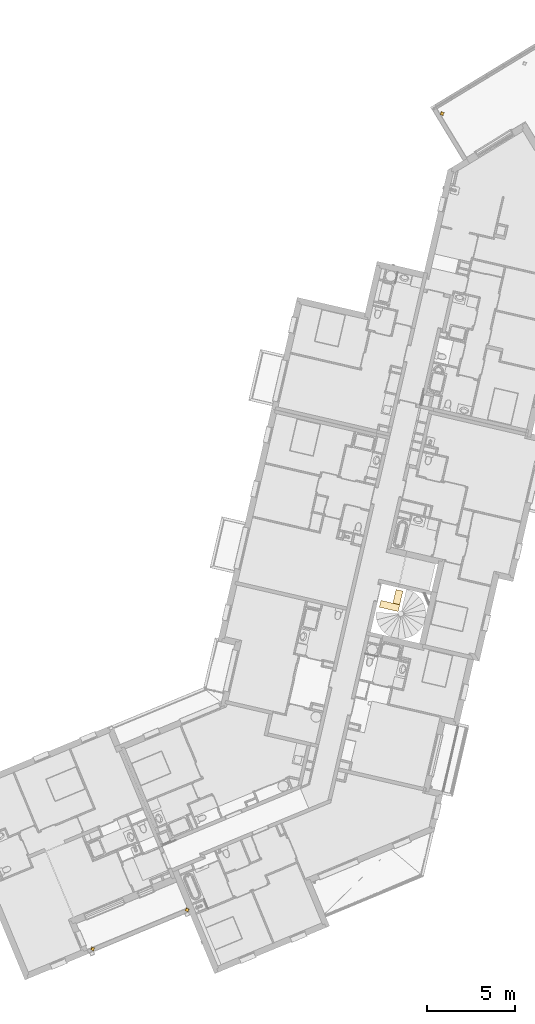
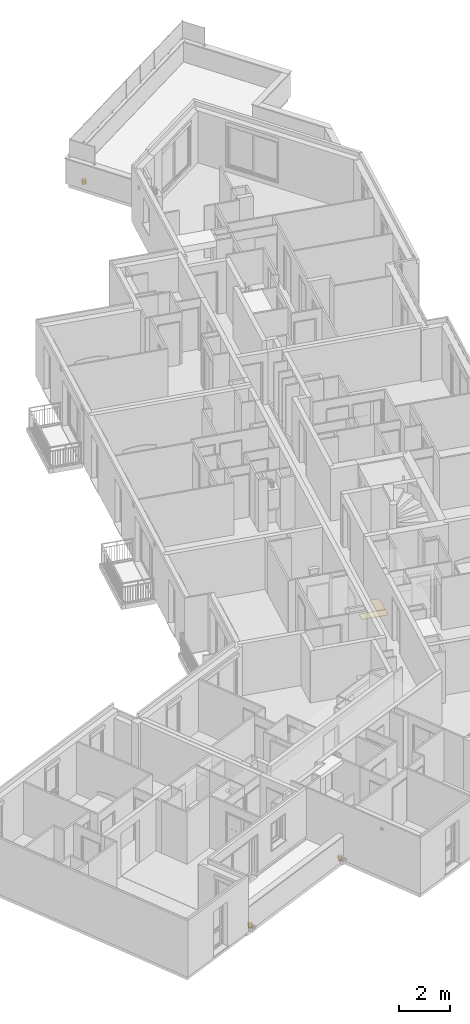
# One storey, part 55 of 91: 5 coverings.
"""IFC2X3 building model written with IfcOpenShell, lengths in metres."""

from ifc_helpers import new_model, entity, si_unit, converted_unit, derived_unit, money_unit, direction, frame, origin_with_axes, place, context, subcontext, project, spatial, faceted_brep, source, transform, mapped, material, type_object, element, save


model = new_model("IFC2X3")

# Units and contexts
model_context = context("Model", 3, precision=1e-05, world=origin_with_axes(), true_north=direction((0.0, 1.0)))
body_context = subcontext(model_context, "Body", "Model", "MODEL_VIEW")
ifc_project = project(units=[si_unit("LENGTHUNIT", "METRE"), si_unit("AREAUNIT", "SQUARE_METRE"), si_unit("VOLUMEUNIT", "CUBIC_METRE"), converted_unit("PLANEANGLEUNIT", "DEGREE", entity("IfcPlaneAngleMeasure", 0.0174532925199), si_unit("PLANEANGLEUNIT", "RADIAN"), dimensions=[0, 0, 0, 0, 0, 0, 0]), si_unit("SOLIDANGLEUNIT", "STERADIAN"), money_unit("EUR"), converted_unit("TIMEUNIT", "Year", entity("IfcTimeMeasure", 31556926.0), si_unit("TIMEUNIT", "SECOND"), dimensions=[0, 0, 1, 0, 0, 0, 0]), si_unit("MASSUNIT", "GRAM", prefix="KILO"), si_unit("THERMODYNAMICTEMPERATUREUNIT", "DEGREE_CELSIUS"), si_unit("LUMINOUSINTENSITYUNIT", "LUMEN"), si_unit("ENERGYUNIT", "JOULE", prefix="MEGA"), derived_unit("THERMALCONDUCTANCEUNIT", [(si_unit("POWERUNIT", "WATT"), 1), (si_unit("LENGTHUNIT", "METRE"), -1), (si_unit("THERMODYNAMICTEMPERATUREUNIT", "KELVIN"), -1)]), derived_unit("SPECIFICHEATCAPACITYUNIT", [(si_unit("ENERGYUNIT", "JOULE"), 1), (si_unit("MASSUNIT", "GRAM", prefix="KILO"), -1), (si_unit("THERMODYNAMICTEMPERATUREUNIT", "KELVIN"), -1)]), derived_unit("MASSDENSITYUNIT", [(si_unit("MASSUNIT", "GRAM", prefix="KILO"), 1), (si_unit("VOLUMEUNIT", "CUBIC_METRE"), -1)])], contexts=[model_context])

# Site, building, storey
site_placement = place(None, origin_with_axes())
site = spatial("IfcSite", under=ifc_project, at=site_placement, Name="Site", CompositionType="ELEMENT")
building_placement = place(site_placement, origin_with_axes())
building = spatial("IfcBuilding", under=site, at=building_placement, Name="Bâtiment", CompositionType="ELEMENT")
storey_placement = place(building_placement, frame((0.0, 0.0, 5.44), z_axis=(0.0, 0.0, 1.0), x_axis=(1.0, 0.0, 0.0)))
storey = spatial("IfcBuildingStorey", under=building, at=storey_placement, Name="R+2", CompositionType="ELEMENT", Elevation=5.44)

# Coverings
ifc_material_1 = material(Name="Volume - Etude")
covering_type_1 = type_object("IfcCoveringType", Name="Evacuation EP terrasse", PredefinedType="FLOORING")
shared_shape_1 = source(origin_with_axes(), body_context, "Body", "Brep", [
    faceted_brep([(0.0522327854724, 0.0878658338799, 0.2), (0.0522327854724, 0.0878658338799, 0.0), (0.058702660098, 0.0767838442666, 0.0), (0.058702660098, 0.0767838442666, 0.2), (0.0477467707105, 0.0998885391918, 0.2), (0.0477467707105, 0.0998885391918, 0.0), (0.045375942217, 0.1125, 0.0), (0.0, 0.1125, 0.0), (0.0, 0.1275, 0.0), (0.045375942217, 0.1275, 0.0), (0.0477467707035, 0.140111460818, 0.0), (0.0522327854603, 0.15213416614, 0.0), (0.0587026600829, 0.163216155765, 0.0), (0.066966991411, 0.173033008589, 0.0), (0.0767838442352, 0.181297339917, 0.0), (0.0878658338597, 0.18776721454, 0.0), (0.0998885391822, 0.192253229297, 0.0), (0.1125, 0.194624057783, 0.0), (0.1125, 0.24, 0.0), (0.1275, 0.24, 0.0), (0.1275, 0.194624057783, 0.0), (0.140111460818, 0.192253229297, 0.0), (0.15213416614, 0.18776721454, 0.0), (0.163216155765, 0.181297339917, 0.0), (0.173033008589, 0.173033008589, 0.0), (0.181297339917, 0.163216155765, 0.0), (0.18776721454, 0.15213416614, 0.0), (0.192253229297, 0.140111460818, 0.0), (0.194624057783, 0.1275, 0.0), (0.24, 0.1275, 0.0), (0.24, 0.1125, 0.0), (0.194624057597, 0.1125, 0.0), (0.192253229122, 0.099888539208, 0.0), (0.187767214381, 0.0878658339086, 0.0), (0.181297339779, 0.0767838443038, 0.0), (0.173033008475, 0.0669669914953, 0.0), (0.163216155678, 0.058702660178, 0.0), (0.152134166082, 0.0522327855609, 0.0), (0.140111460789, 0.0477467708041, 0.0), (0.1275, 0.045375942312, 0.0), (0.1275, 0.0, 0.0), (0.1125, 0.0, 0.0), (0.1125, 0.0453759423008, 0.0), (0.0998885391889, 0.0477467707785, 0.0), (0.0878658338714, 0.0522327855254, 0.0), (0.07678384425, 0.0587026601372, 0.0), (0.066966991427, 0.066966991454, 0.0), (0.066966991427, 0.066966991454, 0.2), (0.07678384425, 0.0587026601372, 0.2), (0.0878658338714, 0.0522327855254, 0.2), (0.0998885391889, 0.0477467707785, 0.2), (0.1125, 0.0453759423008, 0.2), (0.1125, 0.0, 0.2), (0.1275, 0.0, 0.2), (0.1275, 0.045375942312, 0.2), (0.140111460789, 0.0477467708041, 0.2), (0.152134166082, 0.0522327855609, 0.2), (0.163216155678, 0.058702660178, 0.2), (0.173033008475, 0.0669669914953, 0.2), (0.181297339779, 0.0767838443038, 0.2), (0.187767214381, 0.0878658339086, 0.2), (0.192253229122, 0.099888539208, 0.2), (0.194624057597, 0.1125, 0.2), (0.24, 0.1125, 0.2), (0.24, 0.1275, 0.2), (0.194624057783, 0.1275, 0.2), (0.192253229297, 0.140111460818, 0.2), (0.18776721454, 0.15213416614, 0.2), (0.181297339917, 0.163216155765, 0.2), (0.173033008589, 0.173033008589, 0.2), (0.163216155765, 0.181297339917, 0.2), (0.15213416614, 0.18776721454, 0.2), (0.140111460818, 0.192253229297, 0.2), (0.1275, 0.194624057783, 0.2), (0.1275, 0.24, 0.2), (0.1125, 0.24, 0.2), (0.1125, 0.194624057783, 0.2), (0.0998885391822, 0.192253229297, 0.2), (0.0878658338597, 0.18776721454, 0.2), (0.0767838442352, 0.181297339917, 0.2), (0.066966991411, 0.173033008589, 0.2), (0.0587026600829, 0.163216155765, 0.2), (0.0522327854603, 0.15213416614, 0.2), (0.0477467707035, 0.140111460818, 0.2), (0.045375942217, 0.1275, 0.2), (0.0, 0.1275, 0.2), (0.0, 0.1125, 0.2), (0.045375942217, 0.1125, 0.2)], [[[0, 1, 2, 3]], [[4, 5, 1, 0]], [[1, 5, 6, 7, 8, 9, 10, 11, 12, 13, 14, 15, 16, 17, 18, 19, 20, 21, 22, 23, 24, 25, 26, 27, 28, 29, 30, 31, 32, 33, 34, 35, 36, 37, 38, 39, 40, 41, 42, 43, 44, 45, 46, 2]], [[46, 47, 3, 2]], [[4, 0, 3, 47, 48, 49, 50, 51, 52, 53, 54, 55, 56, 57, 58, 59, 60, 61, 62, 63, 64, 65, 66, 67, 68, 69, 70, 71, 72, 73, 74, 75, 76, 77, 78, 79, 80, 81, 82, 83, 84, 85, 86, 87]], [[5, 4, 87, 6]], [[87, 86, 7, 6]], [[86, 85, 8, 7]], [[9, 8, 85, 84]], [[9, 84, 83, 10]], [[82, 11, 10, 83]], [[11, 82, 81, 12]], [[12, 81, 80, 13]], [[13, 80, 79, 14]], [[14, 79, 78, 15]], [[15, 78, 77, 16]], [[16, 77, 76, 17]], [[76, 75, 18, 17]], [[75, 74, 19, 18]], [[73, 20, 19, 74]], [[72, 21, 20, 73]], [[21, 72, 71, 22]], [[22, 71, 70, 23]], [[23, 70, 69, 24]], [[24, 69, 68, 25]], [[67, 26, 25, 68]], [[66, 27, 26, 67]], [[66, 65, 28, 27]], [[29, 28, 65, 64]], [[64, 63, 30, 29]], [[62, 31, 30, 63]], [[61, 32, 31, 62]], [[60, 33, 32, 61]], [[59, 34, 33, 60]], [[58, 35, 34, 59]], [[57, 36, 35, 58]], [[56, 37, 36, 57]], [[55, 38, 37, 56]], [[39, 38, 55, 54]], [[53, 40, 39, 54]], [[52, 41, 40, 53]], [[51, 42, 41, 52]], [[42, 51, 50, 43]], [[49, 44, 43, 50]], [[44, 49, 48, 45]], [[47, 46, 45, 48]]]),
])
for number, where, z_axis, x_axis, name in (
    (1, (-21.8863028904, -24.5222692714, 0.0), (0.0, 0.0, 1.0), (0.383112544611, -0.923701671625, 0.0), "MOB-004"),
    (2, (-27.2752256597, -26.748972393, 0.0), (0.0, 0.0, 1.0), (0.383112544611, -0.923701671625, 0.0), "MOB-004"),
    (3, (-7.33324880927, 20.9192174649, 0.0), (0.0, 0.0, 1.0), (0.383112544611, -0.923701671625, 0.0), "MOB-004"),
):
    element("IfcCovering", number, at=place(storey_placement, frame(where, z_axis=z_axis, x_axis=x_axis)), inside=storey, type_object=covering_type_1, material=ifc_material_1, Name=name, PredefinedType="FLOORING", context=body_context, shape_type="MappedRepresentation", body=[
        mapped(shared_shape_1, transform((0.0, 0.0, 0.0))),
    ])
ifc_material_2 = material(Name="Plastique - PVC")
covering_type_2 = type_object("IfcCoveringType", Name="Bande Podotactile", PredefinedType="FLOORING")
shared_shape_2 = source(origin_with_axes(), body_context, "Body", "Brep", [
    faceted_brep([(0.0, 0.4, 0.0), (0.0, 0.0, 0.0), (0.0, 0.0, 0.005), (0.0, 0.4, 0.005), (1.1, 0.4, 0.0), (1.1, 0.0, 0.0), (1.1, 0.0, 0.005), (1.1, 0.4, 0.005)], [[[0, 1, 2, 3]], [[0, 4, 5, 1]], [[1, 5, 6, 2]], [[3, 2, 6, 7]], [[4, 0, 3, 7]], [[5, 4, 7, 6]]]),
])
covering_1_placement = place(storey_placement, frame((-9.5945363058, -7.17482237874, -2.72), z_axis=(0.0, 0.0, 1.0), x_axis=(-0.974387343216, 0.224876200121, 0.0)))
element("IfcCovering", 4, at=covering_1_placement, inside=storey, type_object=covering_type_2, material=ifc_material_2, Name="Bande podotactile", PredefinedType="FLOORING", context=body_context, shape_type="MappedRepresentation", body=[
    mapped(shared_shape_2, transform((0.0, 0.0, 0.0))),
])
shared_shape_3 = source(origin_with_axes(), body_context, "Body", "Brep", [
    faceted_brep([(0.0, 0.4, 0.0), (0.0, 0.0, 0.0), (0.0, 0.0, 0.005), (0.0, 0.4, 0.005), (0.8, 0.4, 0.0), (0.8, 0.0, 0.0), (0.8, 0.0, 0.005), (0.8, 0.4, 0.005)], [[[0, 1, 2, 3]], [[0, 4, 5, 1]], [[1, 5, 6, 2]], [[3, 2, 6, 7]], [[4, 0, 3, 7]], [[5, 4, 7, 6]]]),
])
covering_2_placement = place(storey_placement, frame((-9.5945363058, -7.17482237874, -2.72), z_axis=(0.0, 0.0, 1.0), x_axis=(0.224876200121, 0.974387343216, 0.0)))
element("IfcCovering", 5, at=covering_2_placement, inside=storey, type_object=covering_type_2, material=ifc_material_2, Name="Bande podotactile", PredefinedType="FLOORING", context=body_context, shape_type="MappedRepresentation", body=[
    mapped(shared_shape_3, transform((0.0, 0.0, 0.0))),
])

save(model, "model.ifc")
